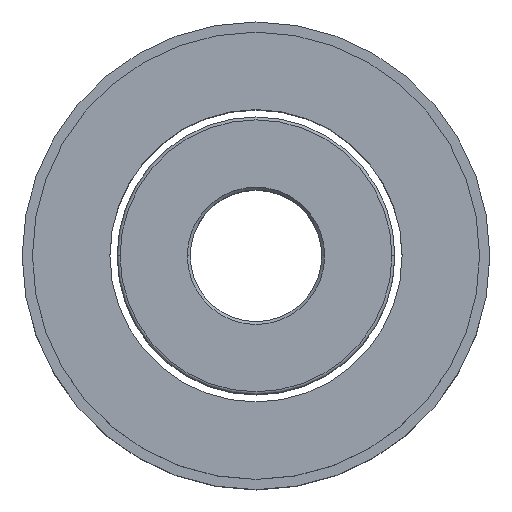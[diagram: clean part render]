
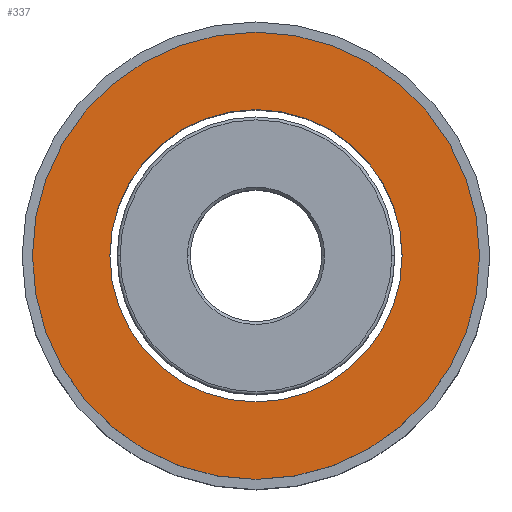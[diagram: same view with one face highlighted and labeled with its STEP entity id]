
A CAD part, top view. The second image highlights one B-rep face of the part: STEP entity #337.
In plain terms, the highlighted planar face has unit normal (0, 0, 1).
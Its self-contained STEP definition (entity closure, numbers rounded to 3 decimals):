
#73 = FACE_OUTER_BOUND ( 'NONE', #492, .T. ) ;
#89 = VERTEX_POINT ( 'NONE', #989 ) ;
#138 = CARTESIAN_POINT ( 'NONE',  ( 0., 0., 0. ) ) ;
#141 = VERTEX_POINT ( 'NONE', #444 ) ;
#156 = CARTESIAN_POINT ( 'NONE',  ( 0., 0., 0. ) ) ;
#220 = ORIENTED_EDGE ( 'NONE', *, *, #501, .F. ) ;
#233 = AXIS2_PLACEMENT_3D ( 'NONE', #907, #365, #853 ) ;
#242 = DIRECTION ( 'NONE',  ( 0., 0., -1. ) ) ;
#250 = DIRECTION ( 'NONE',  ( 1., 0., 0. ) ) ;
#278 = AXIS2_PLACEMENT_3D ( 'NONE', #156, #242, #933 ) ;
#299 = CARTESIAN_POINT ( 'NONE',  ( -5., 0., 0. ) ) ;
#337 = ADVANCED_FACE ( 'NONE', ( #1002, #73 ), #950, .T. ) ;
#338 = ORIENTED_EDGE ( 'NONE', *, *, #404, .T. ) ;
#341 = CIRCLE ( 'NONE', #605, 5. ) ;
#342 = DIRECTION ( 'NONE',  ( 0., 0., -1. ) ) ;
#365 = DIRECTION ( 'NONE',  ( 0., 0., -1. ) ) ;
#382 = CARTESIAN_POINT ( 'NONE',  ( 0., 7.65, 0. ) ) ;
#388 = EDGE_LOOP ( 'NONE', ( #550, #338 ) ) ;
#404 = EDGE_CURVE ( 'NONE', #141, #472, #341, .T. ) ;
#444 = CARTESIAN_POINT ( 'NONE',  ( 5., 0., 0. ) ) ;
#445 = CIRCLE ( 'NONE', #595, 5. ) ;
#448 = DIRECTION ( 'NONE',  ( -1., 0., 0. ) ) ;
#469 = EDGE_CURVE ( 'NONE', #472, #141, #445, .T. ) ;
#470 = ORIENTED_EDGE ( 'NONE', *, *, #664, .F. ) ;
#472 = VERTEX_POINT ( 'NONE', #299 ) ;
#492 = EDGE_LOOP ( 'NONE', ( #470, #220 ) ) ;
#501 = EDGE_CURVE ( 'NONE', #89, #934, #642, .T. ) ;
#550 = ORIENTED_EDGE ( 'NONE', *, *, #469, .T. ) ;
#569 = CARTESIAN_POINT ( 'NONE',  ( 0., 0., 0. ) ) ;
#580 = DIRECTION ( 'NONE',  ( -1., 0., 0. ) ) ;
#595 = AXIS2_PLACEMENT_3D ( 'NONE', #138, #1007, #448 ) ;
#605 = AXIS2_PLACEMENT_3D ( 'NONE', #569, #342, #580 ) ;
#642 = CIRCLE ( 'NONE', #233, 7.65 ) ;
#664 = EDGE_CURVE ( 'NONE', #934, #89, #913, .T. ) ;
#786 = AXIS2_PLACEMENT_3D ( 'NONE', #382, #875, #250 ) ;
#836 = CARTESIAN_POINT ( 'NONE',  ( -7.65, 0., 0. ) ) ;
#853 = DIRECTION ( 'NONE',  ( -1., 0., 0. ) ) ;
#875 = DIRECTION ( 'NONE',  ( 0., 0., 1. ) ) ;
#907 = CARTESIAN_POINT ( 'NONE',  ( 0., 0., 0. ) ) ;
#913 = CIRCLE ( 'NONE', #278, 7.65 ) ;
#933 = DIRECTION ( 'NONE',  ( -1., 0., 0. ) ) ;
#934 = VERTEX_POINT ( 'NONE', #836 ) ;
#950 = PLANE ( 'NONE',  #786 ) ;
#989 = CARTESIAN_POINT ( 'NONE',  ( 7.65, 0., 0. ) ) ;
#1002 = FACE_BOUND ( 'NONE', #388, .T. ) ;
#1007 = DIRECTION ( 'NONE',  ( 0., 0., -1. ) ) ;
